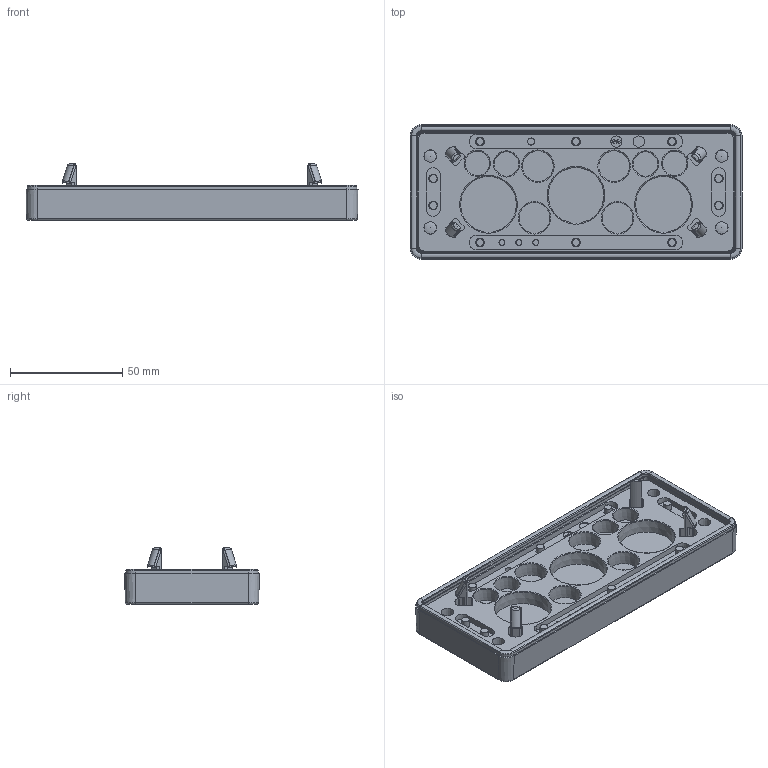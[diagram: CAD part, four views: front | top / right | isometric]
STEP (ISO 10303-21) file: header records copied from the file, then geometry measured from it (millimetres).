
FILE_DESCRIPTION(/* description */ (''),/* implementation_level */ '2;1');
FILE_NAME(/* name */ 'H:\SapWorkDir\Inventor\MP1\ConvertTempPath\87_16_121483_00_A_220620_KDP-X 24-11 ZSB - Blech 1,5-2,0.stp',/* time_stamp */ '2022-06-20T15:33:22+02:00',/* author */ ('BAUER'),/* organization */ (''),/* preprocessor_version */ 'ST-DEVELOPER v16.13',/* originating_system */ 'Autodesk Inventor 2018',/* authorisation */ '');
FILE_SCHEMA (('AUTOMOTIVE_DESIGN { 1 0 10303 214 3 1 1 }'));
Products named in the file (5): 121483; 121380; 105569_MPS_3F1; 105568_MPS_3F1; 104104_MPS_3F1
Assembly tree (4 placements, depth 2):
  121483
    121380
    105569_MPS_3F1
    105568_MPS_3F1
    104104_MPS_3F1
Bounding box: 148 x 60 x 25 mm (x, y, z)
Volume: 72227.2 mm3; surface area: 69142.9 mm2
Topology: 4 solids, 4 shells, 3003 faces, 7736 edges, 4658 vertices
Faces by surface type: plane 1313, bspline 681, cylinder 473, cone 247, torus 195, sphere 94
Full cylindrical faces by diameter (mm): 2.5 x3, 2.6 x3, 3 x1, 3.1 x1, 3.6 x10, 5 x2, 5.5 x8, 6.5 x4, 7.5 x4
Entity records: 104703 total; most frequent: CARTESIAN_POINT 35338, ORIENTED_EDGE 14736, DIRECTION 13406, EDGE_CURVE 7368, VERTEX_POINT 4648, AXIS2_PLACEMENT_3D 4529, LINE 4348, VECTOR 4348
